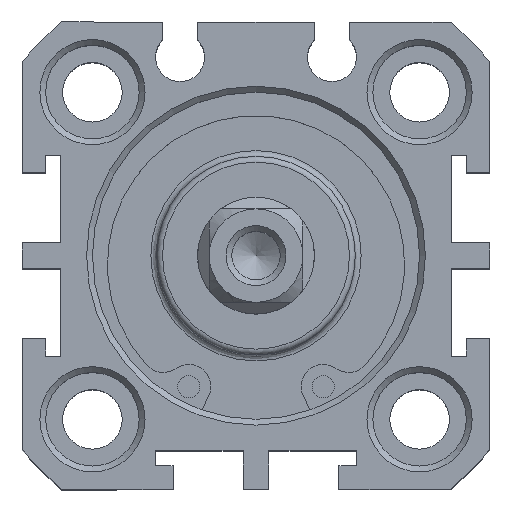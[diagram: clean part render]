
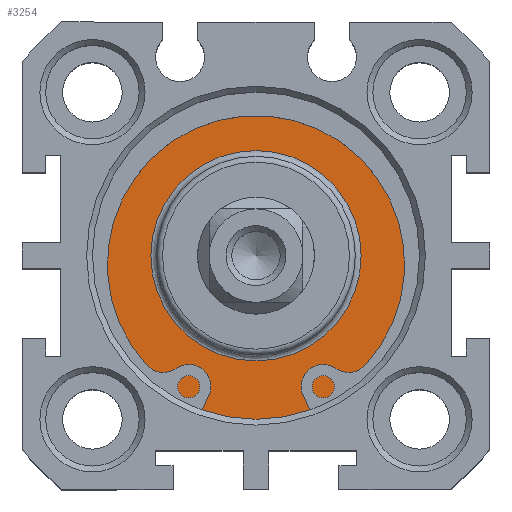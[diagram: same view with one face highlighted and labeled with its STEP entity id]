
A CAD part, top view. The second image highlights one B-rep face of the part: STEP entity #3254.
In plain terms, the highlighted planar face has unit normal (0, 0, 1).
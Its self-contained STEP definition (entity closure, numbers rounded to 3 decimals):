
#3203=CARTESIAN_POINT('',(-2.524,11.284,28.3));
#3204=VERTEX_POINT('',#3203);
#3205=CARTESIAN_POINT('',(-2.524,2.284,28.3));
#3206=DIRECTION('',(0.0,0.0,1.0));
#3207=DIRECTION('',(0.0,-1.0,0.0));
#3208=AXIS2_PLACEMENT_3D('',#3205,#3206,#3207);
#3209=CIRCLE('',#3208,9.);
#3210=EDGE_CURVE('',#3204,#3204,#3209,.T.);
#3235=CARTESIAN_POINT('',(-2.524,13.534,28.3));
#3236=DIRECTION('',(0.0,0.0,1.0));
#3237=DIRECTION('',(1.0,0.0,0.0));
#3238=AXIS2_PLACEMENT_3D('',#3235,#3236,#3237);
#3239=PLANE('',#3238);
#3240=CARTESIAN_POINT('',(-2.524,16.284,28.3));
#3241=VERTEX_POINT('',#3240);
#3242=CARTESIAN_POINT('',(-2.524,2.284,28.3));
#3243=DIRECTION('',(0.0,0.0,-1.0));
#3244=DIRECTION('',(0.0,1.0,0.0));
#3245=AXIS2_PLACEMENT_3D('',#3242,#3243,#3244);
#3246=CIRCLE('',#3245,14.);
#3247=EDGE_CURVE('',#3241,#3241,#3246,.T.);
#3248=ORIENTED_EDGE('',*,*,#3247,.F.);
#3249=EDGE_LOOP('',(#3248));
#3250=FACE_OUTER_BOUND('',#3249,.T.);
#3251=ORIENTED_EDGE('',*,*,#3210,.F.);
#3252=EDGE_LOOP('',(#3251));
#3253=FACE_BOUND('',#3252,.T.);
#3254=ADVANCED_FACE('',(#3250,#3253),#3239,.T.);
